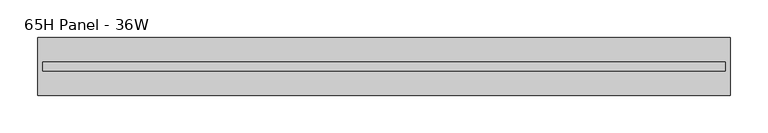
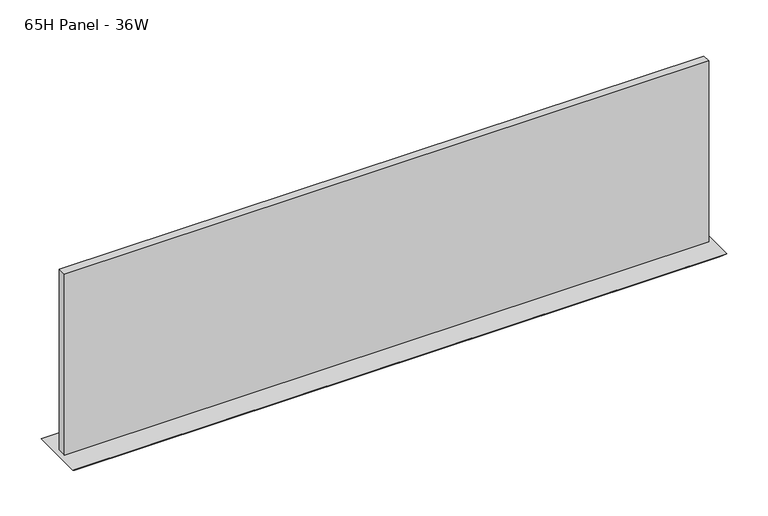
"""IFC4 building model written with IfcOpenShell, lengths in millimetres: furniture geometry, Steelcase - Montage - Tiles - 10H - Frameless Glass Stacker : 65H Panel - 36W."""

from ifc_helpers import new_model, si_unit, frame, origin, place, context, project, spatial, polyline, outline, extrude, faceted_brep, source, transform, mapped, element, save


def furniture_65h_panel_36w_ae4e0621(model_context):
    return source(origin(), model_context, "Body", "SolidModel", [
        faceted_brep([(914.4, -38.1000015, 1660.525), (0.0, -38.1000015, 1660.525), (6.35, -31.7500015, 1654.175), (908.05, -31.7500015, 1654.175), (6.35, 31.7500015, 1654.175), (908.05, 31.7500015, 1654.175), (0.0, 38.1000015, 1660.525), (914.4, 38.1000015, 1660.525)], [[[0, 1, 2, 3]], [[3, 2, 4, 5]], [[6, 7, 5, 4]], [[1, 0, 7, 6]], [[2, 1, 6, 4]], [[0, 3, 5, 7]]]),
        extrude(outline(polyline([(907.6181828, -5.9944001), (6.7818001, -5.9944001), (6.7818001, 5.9944008), (907.6181828, 5.9944008), (907.6181828, -5.9944001)])), frame((0.0, 0.0, 1660.525), z_axis=(0.0, 0.0, 1.0), x_axis=(1.0, 0.0, 0.0)), (0.0, 0.0, 1.0), 267.7160475),
    ])


if __name__ == "__main__":
    model = new_model("IFC4")
    model_context = context("Model", 3, world=origin())
    ifc_project = project(units=[si_unit("LENGTHUNIT", "METRE", prefix="MILLI")], contexts=[model_context])
    site = spatial("IfcSite", under=ifc_project)
    building = spatial("IfcBuilding", under=site)
    placement = place(None, origin())
    furniture_65h_panel_36w_shape = furniture_65h_panel_36w_ae4e0621(model_context)
    element("IfcFurniture", 1, ObjectType="Steelcase - Montage - Tiles - 10H - Frameless Glass Stacker : 65H Panel - 36W", at=placement, inside=building, context=model_context, shape_type="MappedRepresentation", body=[
        mapped(furniture_65h_panel_36w_shape, transform((0.0, 0.0, 0.0), x_axis=(1.0, 0.0, 0.0), y_axis=(0.0, 1.0, 0.0), z_axis=(0.0, 0.0, 1.0))),
    ])
    save(model, "model.ifc")
